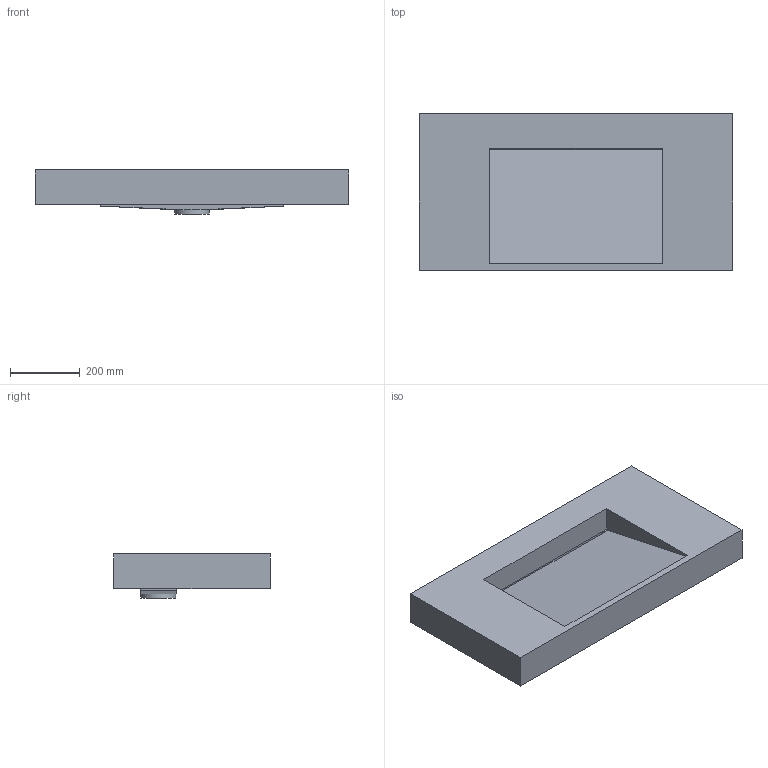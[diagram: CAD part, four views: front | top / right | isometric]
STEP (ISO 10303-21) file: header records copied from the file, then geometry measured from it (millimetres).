
FILE_DESCRIPTION(/* description */ (''),/* implementation_level */ '2;1');
FILE_NAME(/* name */ 'Wall-Hung Basin 900.stp',/* time_stamp */ '2025-10-25T10:51:01+08:00',/* author */ (''),/* organization */ (''),/* preprocessor_version */ 'ST-DEVELOPER v20',/* originating_system */ 'SIEMENS PLM Software NX2412.4001',/* authorisation */ '');
FILE_SCHEMA (('AUTOMOTIVE_DESIGN { 1 0 10303 214 3 1 1 1 }'));
Length unit declared in the file: millimetre
Products named in the file (1): Wall-Hung Basin 900
Bounding box: 900 x 450 x 127 mm (x, y, z)
Volume: 10285375.9 mm3; surface area: 1592105.9 mm2
Topology: 1 solids, 1 shells, 46 faces, 120 edges, 77 vertices
Faces by surface type: plane 37, cylinder 6, cone 3
Full cylindrical faces by diameter (mm): 45 x1, 100 x1
Entity records: 1418 total; most frequent: CARTESIAN_POINT 299, ORIENTED_EDGE 226, DIRECTION 212, EDGE_CURVE 113, LINE 92, VECTOR 92, VERTEX_POINT 75, AXIS2_PLACEMENT_3D 60
